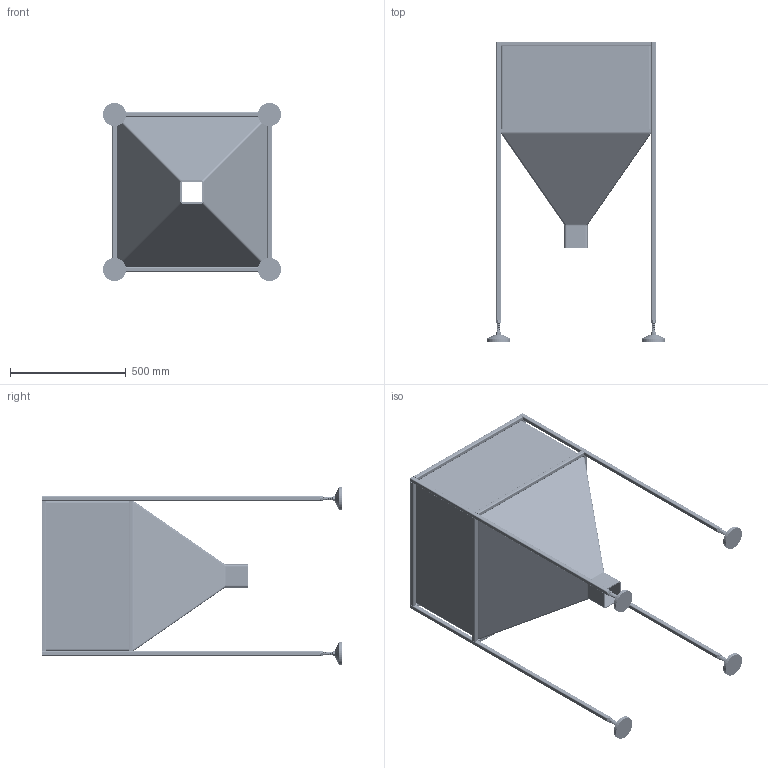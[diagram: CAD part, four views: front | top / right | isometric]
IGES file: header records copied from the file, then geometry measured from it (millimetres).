
Start section: SolidWorks IGES file using analytic representation for surfaces
Global section: file name: C:\Users\sebas\Documents\SOLIDWORKSComposer\TESIS\1. Almacenamiento\IGS\Tolva ensamblada.IGS; native system: SolidWorks 2022; preprocessor: SolidWorks 2022; author: sebas; date: 220619.065152; units: millimetre
Bounding box: 769.96 x 1299.6 x 769.96 mm (x, y, z)
Surface area: 5048353.5 mm2 (no closed solid volume)
Topology: 0 solids, 0 shells, 998 faces, 22616 edges, 22616 vertices
Faces by surface type: revolution 664, bspline 334
